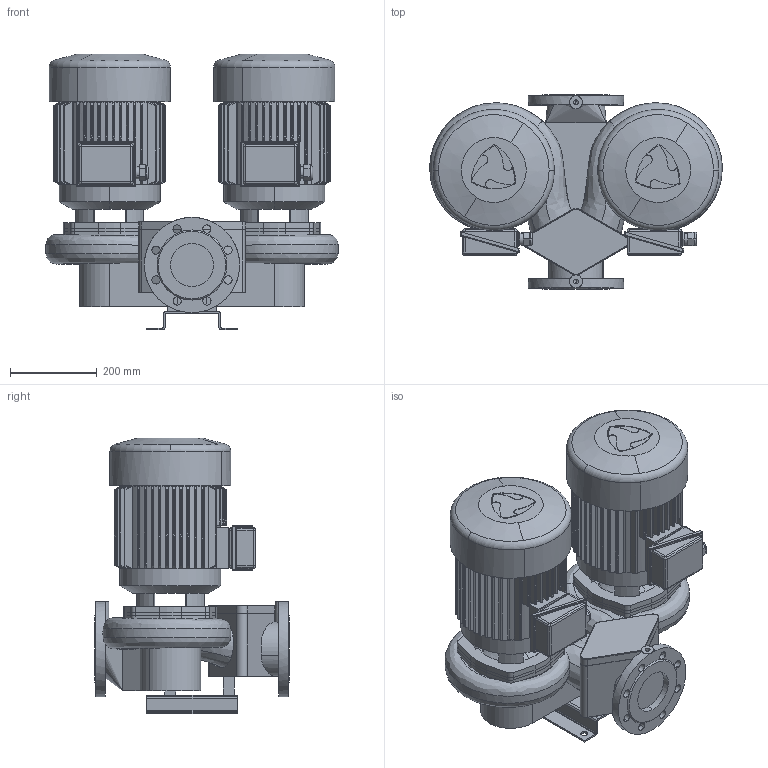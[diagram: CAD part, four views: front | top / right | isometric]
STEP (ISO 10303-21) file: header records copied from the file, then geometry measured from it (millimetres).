
FILE_DESCRIPTION(('STEP AP214'),'1');
FILE_NAME('export.stp','2018-05-28T12:35:14',(' '),(' '),'Spatial InterOp 3D',' ',' ');
FILE_SCHEMA(('AUTOMOTIVE_DESIGN { 1 0 10303 214 1 1 1 1 }'));
Length unit declared in the file: millimetre
Products named in the file (15): W_AT11022750KP132; V_TLL65AB80A1102; V_PPAT1102; V_JALKA35973; V_MOKN132; RU_OKN_132; TSUOJA_OKN_132_133; KYTKOTELO_OKN_100_133; V_Mkp-132_F19; V_EKF19OKN132
Assembly tree (16 placements, depth 4):
  W_AT11022750KP132
    V_TLL65AB80A1102  x2
    V_PPAT1102
    V_JALKA35973
    V_Mkp-132_F19
      V_MOKN132
        RU_OKN_132
        TSUOJA_OKN_132_133
        KYTKOTELO_OKN_100_133
      V_EKF19OKN132
    V_Mkp-132_F19
      V_MOKN132
        RU_OKN_132
        TSUOJA_OKN_132_133
        KYTKOTELO_OKN_100_133
      V_EKF19OKN132
Bounding box: 675.73 x 450 x 637.5 mm (x, y, z)
Volume: 65254905.1 mm3; surface area: 3399954.9 mm2
Topology: 12 solids, 14 shells, 1442 faces, 3742 edges, 2336 vertices
Faces by surface type: cylinder 641, plane 539, cone 174, bspline 34, torus 30, sphere 24
Entity records: 72412 total; most frequent: CARTESIAN_POINT 15689, ORIENTED_EDGE 6980, DIRECTION 6511, STYLED_ITEM 4094, PRESENTATION_STYLE_ASSIGNMENT 4094, COLOUR_RGB 4094, EDGE_CURVE 3490, CURVE_STYLE 2724
